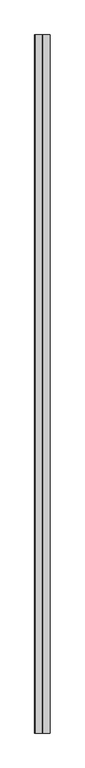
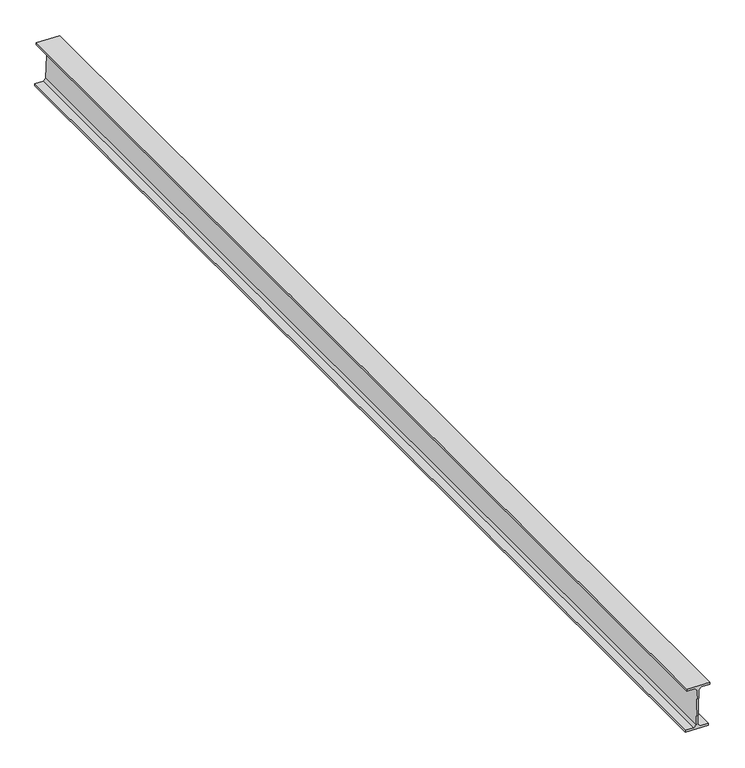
"""IFC4 building model written with IfcOpenShell, lengths in millimetres: beam geometry, Panne 647 : Panne 647."""

from ifc_helpers import new_model, si_unit, frame, origin, place, context, project, spatial, polyline, outline, extrude, source, transform, mapped, element, save


def beam_60513ef6(model_context):
    return source(origin(), model_context, "Body", "SweptSolid", [
        extrude(outline(polyline([(7419.759381, 13435.7911698), (7411.0796957, 13426.48187), (7412.1115638, 13396.9999222), (7404.7160922, 13396.7410807), (7401.8478484, 13478.6909017), (7409.2433201, 13478.9497433), (7410.2751883, 13449.4677954), (7419.5844881, 13440.7881101), (7546.7066496, 13445.2373858), (7555.3863349, 13454.5466856), (7554.3544667, 13484.0286334), (7561.7499384, 13484.2874749), (7564.6181821, 13402.3376538), (7557.2227105, 13402.0788123), (7556.1908423, 13431.5607601), (7546.8815425, 13440.2404454), (7419.759381, 13435.7911698)])), frame((0.0, -4210.0, 0.0), z_axis=(0.0, 1.0, 0.0), x_axis=(0.0, 0.0, 1.0)), (0.0, 0.0, 1.0), 3985.0),
    ])


if __name__ == "__main__":
    model = new_model("IFC4")
    model_context = context("Model", 3, world=origin())
    ifc_project = project(units=[si_unit("LENGTHUNIT", "METRE", prefix="MILLI")], contexts=[model_context])
    site = spatial("IfcSite", under=ifc_project)
    building = spatial("IfcBuilding", under=site)
    placement = place(None, origin())
    beam_shape = beam_60513ef6(model_context)
    element("IfcBeam", 1, ObjectType="Panne 647 : Panne 647", at=placement, inside=building, context=model_context, shape_type="MappedRepresentation", body=[
        mapped(beam_shape, transform((0.0, 0.0, 0.0), x_axis=(1.0, 0.0, 0.0), y_axis=(0.0, 1.0, 0.0), z_axis=(0.0, 0.0, 1.0))),
    ])
    save(model, "model.ifc")
